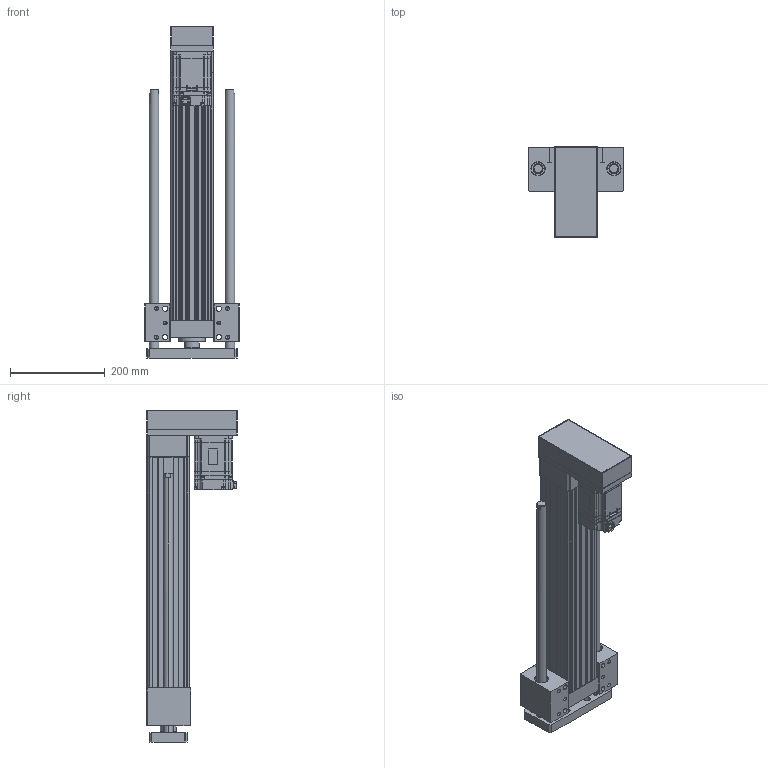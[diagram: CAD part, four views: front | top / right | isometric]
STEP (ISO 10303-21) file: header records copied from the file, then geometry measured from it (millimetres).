
FILE_DESCRIPTION (( 'STEP AP203' ), '1' );
FILE_NAME ('ANS090R-HP400-05(10)(20)-W75.STEP', '2019-03-02T09:46:00', ( 'user' ), ( '' ), 'SwSTEP 2.0', 'SolidWorks 2013', '' );
FILE_SCHEMA (( 'CONFIG_CONTROL_DESIGN' ));
Length unit declared in the file: millimetre
Products named in the file (4): ANS090R-HP400-05(10)(20)-W75; ANS090R HP400 VER2; ANS090 ROD ST400-H; SGMJV_08A_A21
Assembly tree (3 placements, depth 2):
  ANS090R-HP400-05(10)(20)-W75
    ANS090R HP400 VER2
    ANS090 ROD ST400-H
    SGMJV_08A_A21
Bounding box: 200 x 190 x 700 mm (x, y, z)
Volume: 4793760.3 mm3; surface area: 881357.7 mm2
Topology: 3 solids, 3 shells, 1228 faces, 3234 edges, 2090 vertices
Faces by surface type: plane 688, cylinder 434, cone 94, sphere 8, bspline 4
Entity records: 38470 total; most frequent: CARTESIAN_POINT 7180, DIRECTION 6468, ORIENTED_EDGE 6420, EDGE_CURVE 3210, LINE 2168, VECTOR 2168, AXIS2_PLACEMENT_3D 2150, VERTEX_POINT 2090
